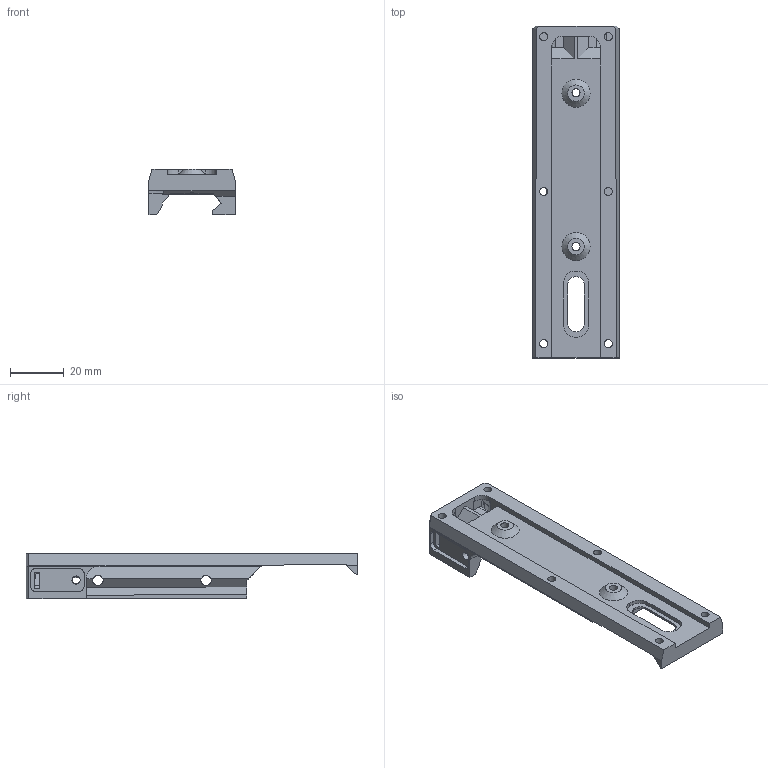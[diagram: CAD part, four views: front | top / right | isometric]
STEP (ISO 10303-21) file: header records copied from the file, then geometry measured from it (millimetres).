
FILE_DESCRIPTION(('HOOPS Exchange Step'),'2;1');
FILE_NAME('/private/var/mobile/Containers/Data/Application/CF5FE49D-83C9-4FF2-81F6-0AAB70978F0F/tmp/export/temp_export','2026-08-29T23:15:24+19:00',('mobile'),('Shapr3D Limited'),'HOOPS Exchange 2026.3','Shapr3D','Authorized');
FILE_SCHEMA( ('AP242_MANAGED_MODEL_BASED_3D_ENGINEERING_MIM_LF {1 0 10303 442 1 1 4}') );
Length unit declared in the file: millimetre
Products named in the file (3): Compass; Compass stage.step; root
Assembly tree (2 placements, depth 3):
  root
    Compass stage.step
      Compass
Bounding box: 32.25 x 123.27 x 17.04 mm (x, y, z)
Volume: 27086.4 mm3; surface area: 13911.1 mm2
Topology: 1 solids, 1 shells, 149 faces, 441 edges, 289 vertices
Faces by surface type: plane 95, cylinder 37, bspline 14, cone 3
Full cylindrical faces by diameter (mm): 3 x11, 4 x2
Entity records: 5662 total; most frequent: CARTESIAN_POINT 1653, ORIENTED_EDGE 882, DIRECTION 744, EDGE_CURVE 441, VECTOR 304, LINE 304, VERTEX_POINT 289, AXIS2_PLACEMENT_3D 220
